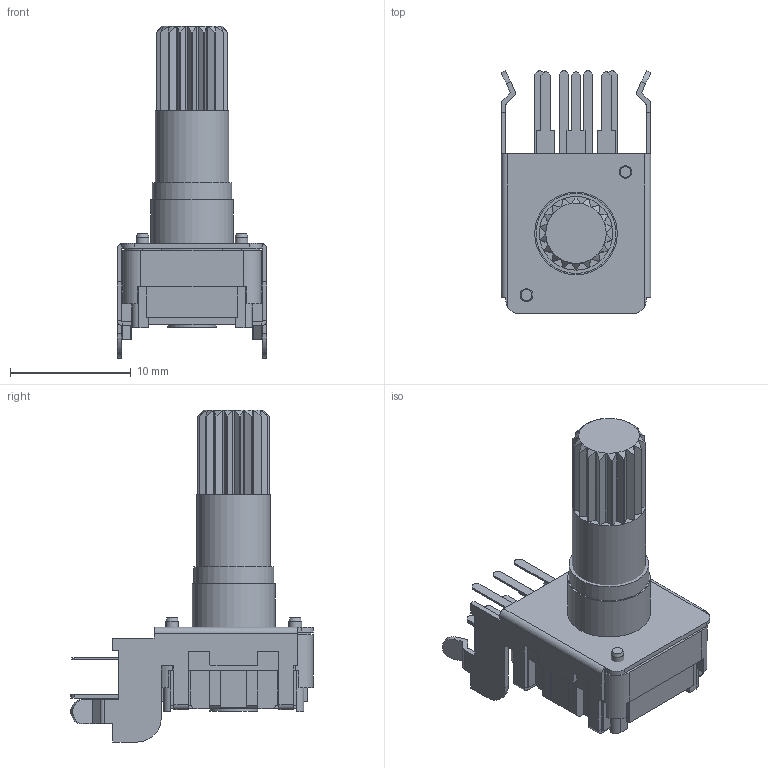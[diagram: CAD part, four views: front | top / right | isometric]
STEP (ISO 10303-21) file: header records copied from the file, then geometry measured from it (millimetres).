
FILE_DESCRIPTION(/* description */ (''),/* implementation_level */ '2;1');
FILE_NAME(/* name */ '\\Forward-ks-ad\開發專區\\X2\9AD896C45EE08A2D8A088AB2\X0\\設計機種開發作業\\X2\91CF75226A5F7A2E5C086848\X0\\ENCODER\機種開發\Encoder\DC12K\3D\CTS\DC12S24212KB04.stp',/* time_stamp */ '2020-06-17T14:30:18+08:00',/* author */ ('jia'),/* organization */ (''),/* preprocessor_version */ 'ST-DEVELOPER v15.2',/* originating_system */ 'Autodesk Inventor 2014',/* authorisation */ '');
FILE_SCHEMA (('AUTOMOTIVE_DESIGN { 1 0 10303 214 3 1 1 }'));
Length unit declared in the file: millimetre
Products named in the file (1): 組合1_Shrinkwrap_1
Bounding box: 12.4 x 20.11 x 27.5 mm (x, y, z)
Surface area: 2139.1 mm2 (no closed solid volume)
Topology: 0 solids, 23 shells, 338 faces, 1027 edges, 692 vertices
Faces by surface type: plane 268, cylinder 67, cone 3
Full cylindrical faces by diameter (mm): 1.031 x1, 1.067 x1, 4 x1, 6.1 x1, 6.625 x1, 6.849 x1
Entity records: 11152 total; most frequent: CARTESIAN_POINT 2129, DIRECTION 1850, ORIENTED_EDGE 1728, EDGE_CURVE 1017, LINE 786, VECTOR 786, VERTEX_POINT 691, AXIS2_PLACEMENT_3D 532
